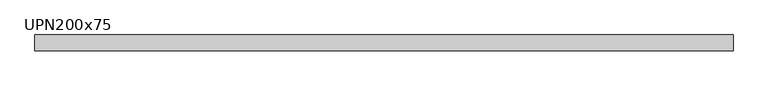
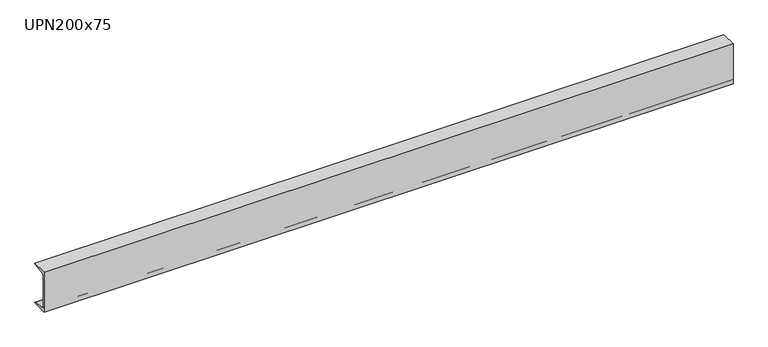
"""IFC4 building model written with IfcOpenShell, lengths in millimetres: beam geometry, M_MC Shapes : UPN200x75."""

from ifc_helpers import new_model, si_unit, point, frame, frame_2d, origin, place, context, project, spatial, polyline, circle_curve, trimmed, segment, composite_curve, outline, extrude, source, transform, mapped, element, save


def upn200x75_22e62ea1(model_context):
    return source(origin(), model_context, "Body", "SweptSolid", [
        extrude(outline(composite_curve([segment(polyline([(-10.9, 100.0), (64.1, 100.0), (64.1, 99.0253247)]), True, "CONTINUOUS"), segment(trimmed(circle_curve(frame_2d((60.15, 99.0253247)), 3.95), [point((64.1, 99.0253247))], [point((60.7993773, 95.1290689))], False, "CARTESIAN"), True, "CONTINUOUS"), segment(polyline([(60.7993773, 95.1290689), (0.2512455, 85.0376935)]), True, "CONTINUOUS"), segment(trimmed(circle_curve(frame_2d((1.55, 77.2451819)), 7.9), [point((0.2512455, 85.0376935))], [point((-6.35, 77.2451819))], True, "CARTESIAN"), True, "CONTINUOUS"), segment(polyline([(-6.35, 77.2451819), (-6.35, -77.2451819)]), True, "CONTINUOUS"), segment(trimmed(circle_curve(frame_2d((1.55, -77.2451819)), 7.9), [point((-6.35, -77.2451819))], [point((0.2512455, -85.0376935))], True, "CARTESIAN"), True, "CONTINUOUS"), segment(polyline([(0.2512455, -85.0376935), (60.7993773, -95.1290689)]), True, "CONTINUOUS"), segment(trimmed(circle_curve(frame_2d((60.15, -99.0253247)), 3.95), [point((60.7993773, -95.1290689))], [point((64.1, -99.0253247))], False, "CARTESIAN"), True, "CONTINUOUS"), segment(polyline([(64.1, -99.0253247), (64.1, -100.0), (-10.9, -100.0), (-10.9, 100.0)]), True, "CONTINUOUS")], self_intersect=False)), frame((-1822.55, 0.0, 0.0), z_axis=(1.0, 0.0, 0.0), x_axis=(0.0, 1.0, 0.0)), (0.0, 0.0, 1.0), 3267.5),
    ])


if __name__ == "__main__":
    model = new_model("IFC4")
    model_context = context("Model", 3, world=origin())
    ifc_project = project(units=[si_unit("LENGTHUNIT", "METRE", prefix="MILLI")], contexts=[model_context])
    site = spatial("IfcSite", under=ifc_project)
    building = spatial("IfcBuilding", under=site)
    placement = place(None, origin())
    upn200x75_shape = upn200x75_22e62ea1(model_context)
    element("IfcBeam", 1, ObjectType="M_MC Shapes : UPN200x75", at=placement, inside=building, context=model_context, shape_type="MappedRepresentation", body=[
        mapped(upn200x75_shape, transform((0.0, 0.0, 0.0), x_axis=(1.0, 0.0, 0.0), y_axis=(0.0, 1.0, 0.0), z_axis=(0.0, 0.0, 1.0))),
    ])
    save(model, "model.ifc")
